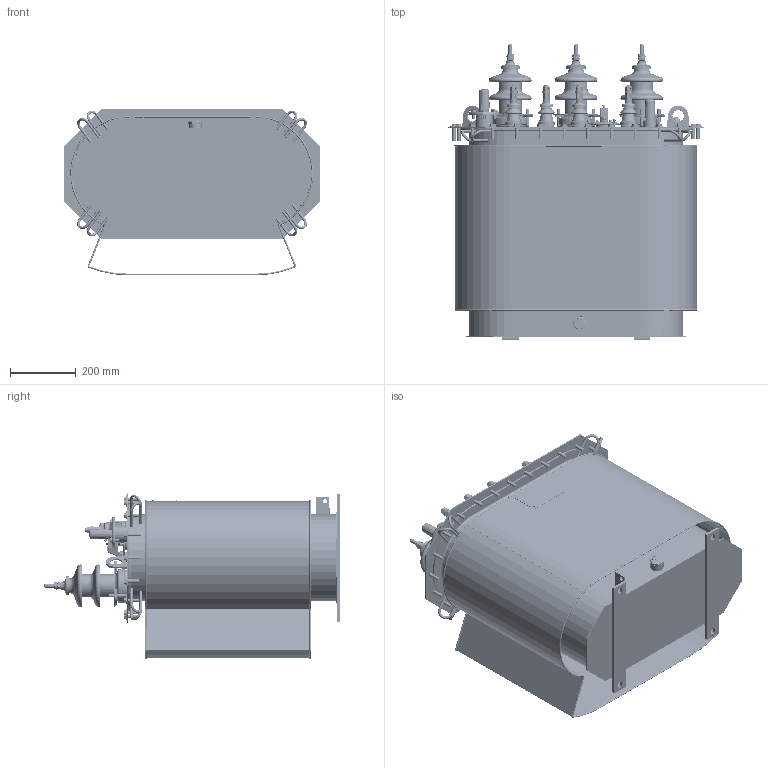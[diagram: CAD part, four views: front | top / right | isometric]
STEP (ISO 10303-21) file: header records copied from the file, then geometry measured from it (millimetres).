
FILE_DESCRIPTION(/* description */ (''),/* implementation_level */ '2;1');
FILE_NAME(/* name */ 'D:\SEARCHWORK\Готовые\\X2\0413043E0442043E0432044B0435\X0\ ТМГ\ТМГ-25-15\ТМГ-25-15.stp',/* time_stamp */ '2021-06-14T11:02:08+03:00',/* author */ ('55505'),/* organization */ (''),/* preprocessor_version */ 'ST-DEVELOPER v15.2',/* originating_system */ 'Autodesk Inventor 2014',/* authorisation */ '');
FILE_SCHEMA (('AUTOMOTIVE_DESIGN { 1 0 10303 214 3 1 1 }'));
Products named in the file (1): ТМГ-25-15
Bounding box: 782 x 898.71 x 506.5 mm (x, y, z)
Volume: 3582820.8 mm3; surface area: 5326381.3 mm2
Topology: 70 solids, 98 shells, 7316 faces, 17380 edges, 10287 vertices
Faces by surface type: plane 2539, cylinder 1725, bspline 1616, torus 865, cone 294, sphere 277
Full cylindrical faces by diameter (mm): 1.5 x4, 1.6 x6, 2 x2, 2.5 x6, 3 x3, 3.1 x2, 3.2 x4, 3.8 x4, 4 x5, 4.134 x2, 4.2 x2, 4.42 x3, 4.917 x2, 4.95 x2, 5 x13, 5.94 x5, 6 x14, 6.2 x4, 6.5 x1, 7 x1, 7.1 x2, 7.5 x2, 7.92 x3, 8 x23, 8.4 x1, 8.5 x3, 8.746 x9, 9 x3, 9.6 x1, 9.9 x26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
Entity records: 250895 total; most frequent: CARTESIAN_POINT 93044, ORIENTED_EDGE 31404, DIRECTION 28452, EDGE_CURVE 15660, AXIS2_PLACEMENT_3D 11313, VERTEX_POINT 10009, EDGE_LOOP 9081, ADVANCED_FACE 7318
